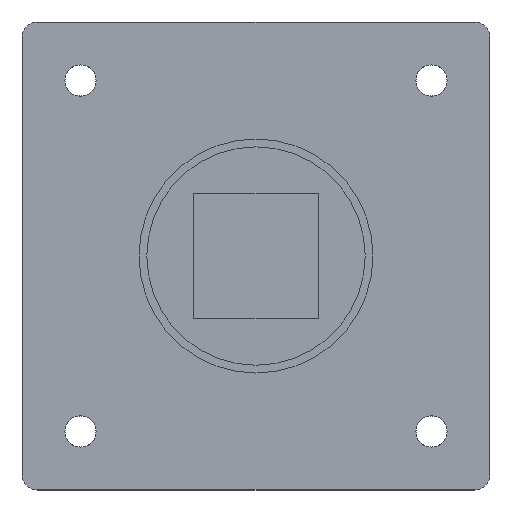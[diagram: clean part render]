
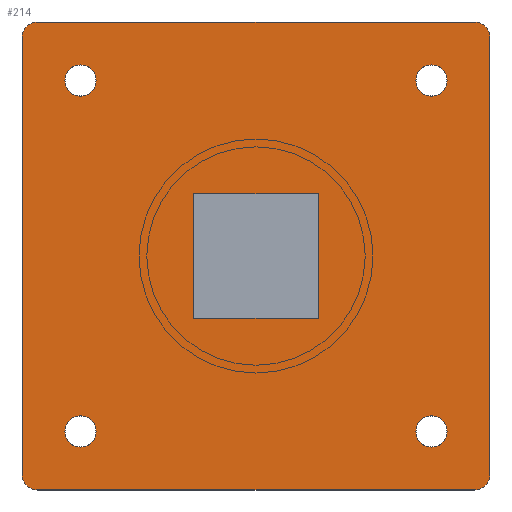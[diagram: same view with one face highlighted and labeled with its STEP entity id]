
A CAD part, top view. The second image highlights one B-rep face of the part: STEP entity #214.
In plain terms, the highlighted planar face has unit normal (0, 0, 1).
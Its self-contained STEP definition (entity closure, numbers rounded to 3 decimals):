
#214 = ADVANCED_FACE( '', ( #591, #592, #593, #594, #595, #596 ), #597, .T. );
#224 = EDGE_CURVE( '', #234, #384, #610, .T. );
#232 = EDGE_CURVE( '', #266, #234, #618, .T. );
#234 = VERTEX_POINT( '', #620 );
#240 = EDGE_CURVE( '', #468, #312, #628, .T. );
#256 = EDGE_CURVE( '', #292, #266, #648, .T. );
#266 = VERTEX_POINT( '', #659 );
#268 = VERTEX_POINT( '', #661 );
#276 = EDGE_CURVE( '', #308, #292, #669, .T. );
#286 = VERTEX_POINT( '', #680 );
#292 = VERTEX_POINT( '', #687 );
#296 = EDGE_CURVE( '', #286, #268, #691, .T. );
#304 = EDGE_CURVE( '', #334, #308, #699, .T. );
#308 = VERTEX_POINT( '', #703 );
#312 = VERTEX_POINT( '', #708 );
#334 = VERTEX_POINT( '', #733 );
#336 = VERTEX_POINT( '', #735 );
#342 = EDGE_CURVE( '', #374, #336, #743, .T. );
#344 = EDGE_CURVE( '', #336, #334, #745, .T. );
#348 = VERTEX_POINT( '', #749 );
#364 = EDGE_CURVE( '', #384, #374, #765, .T. );
#374 = VERTEX_POINT( '', #776 );
#384 = VERTEX_POINT( '', #786 );
#388 = EDGE_CURVE( '', #480, #442, #790, .T. );
#390 = EDGE_CURVE( '', #268, #286, #792, .T. );
#408 = EDGE_CURVE( '', #312, #468, #813, .T. );
#410 = VERTEX_POINT( '', #815 );
#412 = EDGE_CURVE( '', #410, #348, #817, .T. );
#420 = EDGE_CURVE( '', #446, #544, #826, .T. );
#442 = VERTEX_POINT( '', #849 );
#444 = EDGE_CURVE( '', #486, #446, #851, .T. );
#446 = VERTEX_POINT( '', #853 );
#454 = EDGE_CURVE( '', #442, #480, #861, .T. );
#468 = VERTEX_POINT( '', #876 );
#470 = EDGE_CURVE( '', #348, #410, #878, .T. );
#480 = VERTEX_POINT( '', #889 );
#482 = EDGE_CURVE( '', #538, #486, #891, .T. );
#486 = VERTEX_POINT( '', #895 );
#532 = EDGE_CURVE( '', #544, #538, #948, .T. );
#538 = VERTEX_POINT( '', #954 );
#544 = VERTEX_POINT( '', #960 );
#591 = FACE_BOUND( '', #1000, .T. );
#592 = FACE_OUTER_BOUND( '', #1001, .T. );
#593 = FACE_BOUND( '', #1002, .T. );
#594 = FACE_BOUND( '', #1003, .T. );
#595 = FACE_BOUND( '', #1004, .T. );
#596 = FACE_BOUND( '', #1005, .T. );
#597 = PLANE( '', #1006 );
#610 = CIRCLE( '', #1020, 2. );
#618 = LINE( '', #1031, #1032 );
#620 = CARTESIAN_POINT( '', ( -28., -30., 0. ) );
#628 = CIRCLE( '', #1043, 2. );
#648 = CIRCLE( '', #1069, 2. );
#659 = CARTESIAN_POINT( '', ( 28., -30., 0. ) );
#661 = CARTESIAN_POINT( '', ( 24.5, -22.5, 0. ) );
#669 = LINE( '', #1098, #1099 );
#680 = CARTESIAN_POINT( '', ( 20.5, -22.5, 0. ) );
#687 = CARTESIAN_POINT( '', ( 30., -28., 0. ) );
#691 = CIRCLE( '', #1127, 2. );
#699 = CIRCLE( '', #1139, 2. );
#703 = CARTESIAN_POINT( '', ( 30., 28., 0. ) );
#708 = CARTESIAN_POINT( '', ( -20.5, 22.5, 0. ) );
#733 = CARTESIAN_POINT( '', ( 28., 30., 0. ) );
#735 = CARTESIAN_POINT( '', ( -28., 30., 0. ) );
#743 = CIRCLE( '', #1195, 2. );
#745 = LINE( '', #1198, #1199 );
#749 = CARTESIAN_POINT( '', ( -24.5, -22.5, 0. ) );
#765 = LINE( '', #1230, #1231 );
#776 = CARTESIAN_POINT( '', ( -30., 28., 0. ) );
#786 = CARTESIAN_POINT( '', ( -30., -28., 0. ) );
#790 = CIRCLE( '', #1263, 2. );
#792 = CIRCLE( '', #1266, 2. );
#813 = CIRCLE( '', #1291, 2. );
#815 = CARTESIAN_POINT( '', ( -20.5, -22.5, 0. ) );
#817 = CIRCLE( '', #1296, 2. );
#826 = LINE( '', #1309, #1310 );
#849 = CARTESIAN_POINT( '', ( 20.5, 22.5, 0. ) );
#851 = LINE( '', #1347, #1348 );
#853 = CARTESIAN_POINT( '', ( 8., 8., 0. ) );
#861 = CIRCLE( '', #1360, 2. );
#876 = CARTESIAN_POINT( '', ( -24.5, 22.5, 0. ) );
#878 = CIRCLE( '', #1384, 2. );
#889 = CARTESIAN_POINT( '', ( 24.5, 22.5, 0. ) );
#891 = LINE( '', #1402, #1403 );
#895 = CARTESIAN_POINT( '', ( -8., 8., 0. ) );
#948 = LINE( '', #1475, #1476 );
#954 = CARTESIAN_POINT( '', ( -8., -8., 0. ) );
#960 = CARTESIAN_POINT( '', ( 8., -8., 0. ) );
#1000 = EDGE_LOOP( '', ( #1552, #1553, #1554, #1555 ) );
#1001 = EDGE_LOOP( '', ( #1556, #1557, #1558, #1559, #1560, #1561, #1562, #1563 ) );
#1002 = EDGE_LOOP( '', ( #1564, #1565 ) );
#1003 = EDGE_LOOP( '', ( #1566, #1567 ) );
#1004 = EDGE_LOOP( '', ( #1568, #1569 ) );
#1005 = EDGE_LOOP( '', ( #1570, #1571 ) );
#1006 = AXIS2_PLACEMENT_3D( '', #1572, #1573, #1574 );
#1020 = AXIS2_PLACEMENT_3D( '', #1591, #1592, #1593 );
#1031 = CARTESIAN_POINT( '', ( -28., -30., 0. ) );
#1032 = VECTOR( '', #1599, 1. );
#1043 = AXIS2_PLACEMENT_3D( '', #1608, #1609, #1610 );
#1069 = AXIS2_PLACEMENT_3D( '', #1640, #1641, #1642 );
#1098 = CARTESIAN_POINT( '', ( 30., -28., 0. ) );
#1099 = VECTOR( '', #1657, 1. );
#1127 = AXIS2_PLACEMENT_3D( '', #1679, #1680, #1681 );
#1139 = AXIS2_PLACEMENT_3D( '', #1686, #1687, #1688 );
#1195 = AXIS2_PLACEMENT_3D( '', #1745, #1746, #1747 );
#1198 = CARTESIAN_POINT( '', ( 28., 30., 0. ) );
#1199 = VECTOR( '', #1748, 1. );
#1230 = CARTESIAN_POINT( '', ( -30., 28., 0. ) );
#1231 = VECTOR( '', #1759, 1. );
#1263 = AXIS2_PLACEMENT_3D( '', #1781, #1782, #1783 );
#1266 = AXIS2_PLACEMENT_3D( '', #1784, #1785, #1786 );
#1291 = AXIS2_PLACEMENT_3D( '', #1820, #1821, #1822 );
#1296 = AXIS2_PLACEMENT_3D( '', #1823, #1824, #1825 );
#1309 = CARTESIAN_POINT( '', ( 8., 4., 0. ) );
#1310 = VECTOR( '', #1838, 1. );
#1347 = CARTESIAN_POINT( '', ( -4., 8., 0. ) );
#1348 = VECTOR( '', #1860, 1. );
#1360 = AXIS2_PLACEMENT_3D( '', #1864, #1865, #1866 );
#1384 = AXIS2_PLACEMENT_3D( '', #1878, #1879, #1880 );
#1402 = CARTESIAN_POINT( '', ( -8., -4., 0. ) );
#1403 = VECTOR( '', #1891, 1. );
#1475 = CARTESIAN_POINT( '', ( 4., -8., 0. ) );
#1476 = VECTOR( '', #1963, 1. );
#1552 = ORIENTED_EDGE( '', *, *, #444, .T. );
#1553 = ORIENTED_EDGE( '', *, *, #420, .T. );
#1554 = ORIENTED_EDGE( '', *, *, #532, .T. );
#1555 = ORIENTED_EDGE( '', *, *, #482, .T. );
#1556 = ORIENTED_EDGE( '', *, *, #364, .F. );
#1557 = ORIENTED_EDGE( '', *, *, #224, .F. );
#1558 = ORIENTED_EDGE( '', *, *, #232, .F. );
#1559 = ORIENTED_EDGE( '', *, *, #256, .F. );
#1560 = ORIENTED_EDGE( '', *, *, #276, .F. );
#1561 = ORIENTED_EDGE( '', *, *, #304, .F. );
#1562 = ORIENTED_EDGE( '', *, *, #344, .F. );
#1563 = ORIENTED_EDGE( '', *, *, #342, .F. );
#1564 = ORIENTED_EDGE( '', *, *, #390, .F. );
#1565 = ORIENTED_EDGE( '', *, *, #296, .F. );
#1566 = ORIENTED_EDGE( '', *, *, #388, .F. );
#1567 = ORIENTED_EDGE( '', *, *, #454, .F. );
#1568 = ORIENTED_EDGE( '', *, *, #412, .F. );
#1569 = ORIENTED_EDGE( '', *, *, #470, .F. );
#1570 = ORIENTED_EDGE( '', *, *, #408, .F. );
#1571 = ORIENTED_EDGE( '', *, *, #240, .F. );
#1572 = CARTESIAN_POINT( '', ( 0., 0., 0. ) );
#1573 = DIRECTION( '', ( 0., 0., 1. ) );
#1574 = DIRECTION( '', ( 1., 0., 0. ) );
#1591 = CARTESIAN_POINT( '', ( -28., -28., 0. ) );
#1592 = DIRECTION( '', ( 0., 0., -1. ) );
#1593 = DIRECTION( '', ( -1., 0., 0. ) );
#1599 = DIRECTION( '', ( -1., 0., 0. ) );
#1608 = CARTESIAN_POINT( '', ( -22.5, 22.5, 0. ) );
#1609 = DIRECTION( '', ( 0., 0., 1. ) );
#1610 = DIRECTION( '', ( 1., 0., 0. ) );
#1640 = CARTESIAN_POINT( '', ( 28., -28., 0. ) );
#1641 = DIRECTION( '', ( 0., 0., -1. ) );
#1642 = DIRECTION( '', ( 0., -1., 0. ) );
#1657 = DIRECTION( '', ( 0., -1., 0. ) );
#1679 = CARTESIAN_POINT( '', ( 22.5, -22.5, 0. ) );
#1680 = DIRECTION( '', ( 0., 0., 1. ) );
#1681 = DIRECTION( '', ( 1., 0., 0. ) );
#1686 = CARTESIAN_POINT( '', ( 28., 28., 0. ) );
#1687 = DIRECTION( '', ( 0., 0., -1. ) );
#1688 = DIRECTION( '', ( 1., 0., 0. ) );
#1745 = CARTESIAN_POINT( '', ( -28., 28., 0. ) );
#1746 = DIRECTION( '', ( 0., 0., -1. ) );
#1747 = DIRECTION( '', ( 0., 1., 0. ) );
#1748 = DIRECTION( '', ( 1., 0., 0. ) );
#1759 = DIRECTION( '', ( 0., 1., 0. ) );
#1781 = CARTESIAN_POINT( '', ( 22.5, 22.5, 0. ) );
#1782 = DIRECTION( '', ( 0., 0., 1. ) );
#1783 = DIRECTION( '', ( 1., 0., 0. ) );
#1784 = CARTESIAN_POINT( '', ( 22.5, -22.5, 0. ) );
#1785 = DIRECTION( '', ( 0., 0., 1. ) );
#1786 = DIRECTION( '', ( 1., 0., 0. ) );
#1820 = CARTESIAN_POINT( '', ( -22.5, 22.5, 0. ) );
#1821 = DIRECTION( '', ( 0., 0., 1. ) );
#1822 = DIRECTION( '', ( 1., 0., 0. ) );
#1823 = CARTESIAN_POINT( '', ( -22.5, -22.5, 0. ) );
#1824 = DIRECTION( '', ( 0., 0., 1. ) );
#1825 = DIRECTION( '', ( 1., 0., 0. ) );
#1838 = DIRECTION( '', ( 0., -1., 0. ) );
#1860 = DIRECTION( '', ( 1., 0., 0. ) );
#1864 = CARTESIAN_POINT( '', ( 22.5, 22.5, 0. ) );
#1865 = DIRECTION( '', ( 0., 0., 1. ) );
#1866 = DIRECTION( '', ( 1., 0., 0. ) );
#1878 = CARTESIAN_POINT( '', ( -22.5, -22.5, 0. ) );
#1879 = DIRECTION( '', ( 0., 0., 1. ) );
#1880 = DIRECTION( '', ( 1., 0., 0. ) );
#1891 = DIRECTION( '', ( 0., 1., 0. ) );
#1963 = DIRECTION( '', ( -1., 0., 0. ) );
